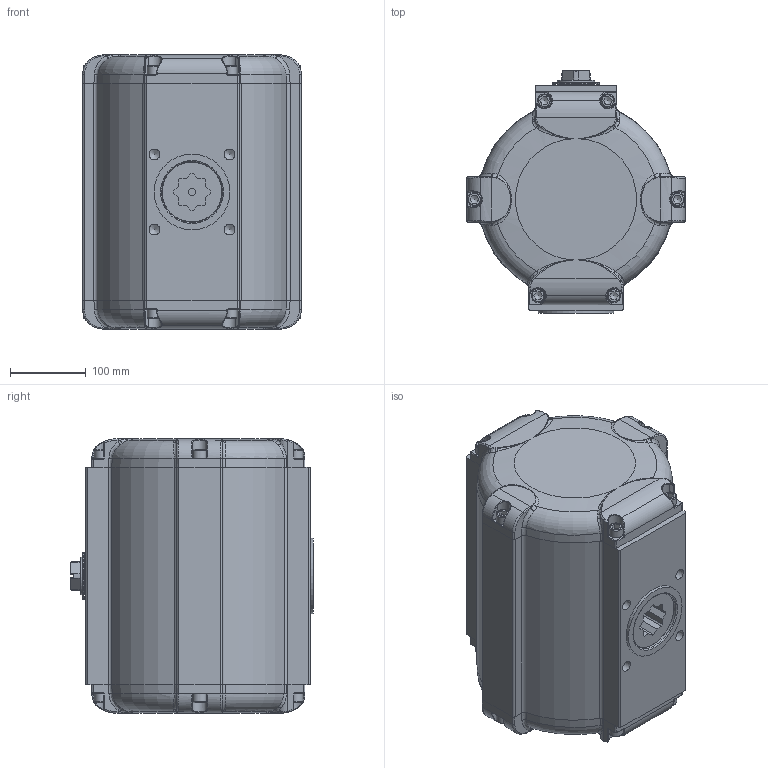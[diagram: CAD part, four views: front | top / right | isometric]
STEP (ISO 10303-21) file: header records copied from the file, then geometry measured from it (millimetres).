
FILE_DESCRIPTION((''),'2;1');
FILE_NAME('C:\Dokumente und Einstellungen\kir\Desktop\Iges step\SAD 42.stp','2006-12-21T09:07:27',('kir'),(''),'Autodesk Inventor 10','Autodesk Inventor 10','');
FILE_SCHEMA(('AUTOMOTIVE_DESIGN { 1 0 10303 214 1 1 1 1 }'));
Length unit declared in the file: millimetre
Products named in the file (1): ENG-040025
Bounding box: 288 x 320 x 362.2 mm (x, y, z)
Volume: 5556190.9 mm3; surface area: 903322.2 mm2
Topology: 26 solids, 26 shells, 1009 faces, 2474 edges, 1525 vertices
Faces by surface type: bspline 351, plane 306, cylinder 236, torus 62, cone 54
Full cylindrical faces by diameter (mm): 2.5 x2, 10.376 x6, 12 x12, 13 x8, 18 x12, 37 x1, 45 x2, 46 x1, 46.3 x1, 49.8 x3, 50.1 x1, 63 x2, 64 x1, 75 x3, 79.8 x3, 100 x1, 236 x1, 245.873 x2
Entity records: 70258 total; most frequent: CARTESIAN_POINT 49832, ORIENTED_EDGE 4304, DIRECTION 3806, EDGE_CURVE 2152, AXIS2_PLACEMENT_3D 1579, VERTEX_POINT 1397, EDGE_LOOP 1253, FACE_OUTER_BOUND 1007
